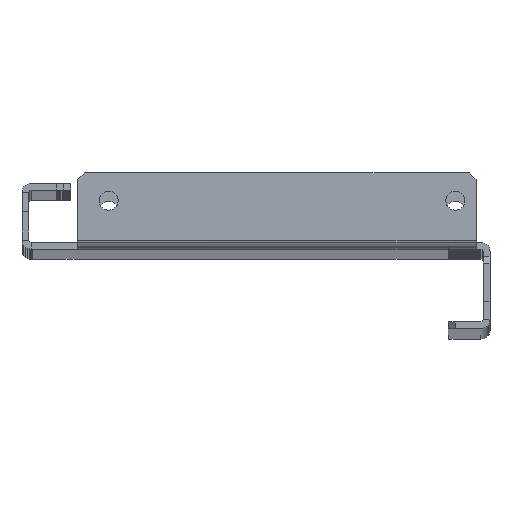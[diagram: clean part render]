
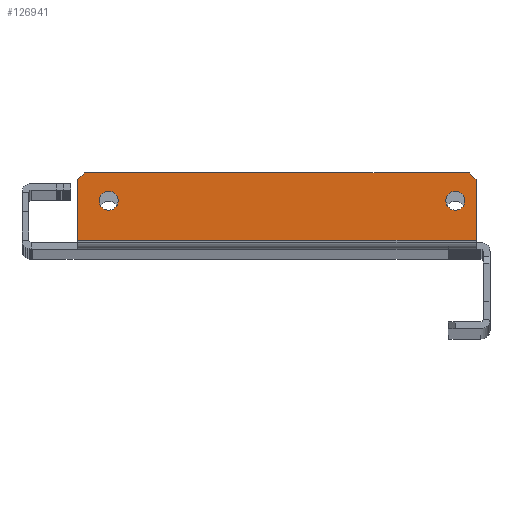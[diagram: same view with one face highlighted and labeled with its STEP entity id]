
A CAD part, top view. The second image highlights one B-rep face of the part: STEP entity #126941.
In plain terms, the highlighted planar face has unit normal (0, 0, 1).
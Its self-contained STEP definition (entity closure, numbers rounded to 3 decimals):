
#94421=CARTESIAN_POINT(' ',(131.,1.,1690.));
#94422=VERTEX_POINT(' ',#94421);
#94436=CARTESIAN_POINT(' ',(131.,1.,1690.));
#94441=DIRECTION(' ',(0.,-1.,0.));
#94446=VECTOR(' ',#94441,1.);
#94451=LINE('',#94436,#94446);
#94456=CARTESIAN_POINT(' ',(131.,-16.4,1690.));
#94457=VERTEX_POINT(' ',#94456);
#94461=EDGE_CURVE(' ',#94422,#94457,#94451,.T.);
#99801=CARTESIAN_POINT(' ',(16.,-16.4,1690.));
#99806=DIRECTION(' ',(1.,0.,0.));
#99811=VECTOR(' ',#99806,1.);
#99816=LINE('',#99801,#99811);
#99821=CARTESIAN_POINT(' ',(16.,-16.4,1690.));
#99822=VERTEX_POINT(' ',#99821);
#99826=EDGE_CURVE(' ',#99822,#94457,#99816,.T.);
#99926=CARTESIAN_POINT(' ',(16.,1.,1690.));
#99931=DIRECTION(' ',(0.,-1.,0.));
#99936=VECTOR(' ',#99931,1.);
#99941=LINE('',#99926,#99936);
#99946=CARTESIAN_POINT(' ',(16.,1.,1690.));
#99947=VERTEX_POINT(' ',#99946);
#99951=EDGE_CURVE(' ',#99947,#99822,#99941,.T.);
#126551=CARTESIAN_POINT(' ',(131.,1.,1690.));
#126556=DIRECTION(' ',(-0.707,0.707,0.));
#126561=VECTOR(' ',#126556,1.);
#126566=LINE('',#126551,#126561);
#126571=CARTESIAN_POINT(' ',(129.,3.,1690.));
#126572=VERTEX_POINT(' ',#126571);
#126576=EDGE_CURVE(' ',#94422,#126572,#126566,.T.);
#126641=DIRECTION(' ',(0.,0.,1.));
#126646=CARTESIAN_POINT(' ',(16.,-16.4,1690.));
#126651=DIRECTION(' ',(1.,0.,-0.));
#126656=AXIS2_PLACEMENT_3D(' ',#126646,#126641,#126651);
#126661=PLANE('NONE',#126656);
#126666=CARTESIAN_POINT(' ',(129.,3.,1690.));
#126671=DIRECTION(' ',(-1.,0.,0.));
#126676=VECTOR(' ',#126671,1.);
#126681=LINE('',#126666,#126676);
#126686=CARTESIAN_POINT(' ',(18.,3.,1690.));
#126687=VERTEX_POINT(' ',#126686);
#126691=EDGE_CURVE(' ',#126572,#126687,#126681,.T.);
#126696=ORIENTED_EDGE(' ',*,*,#126691,.T.);
#126701=CARTESIAN_POINT(' ',(18.,3.,1690.));
#126706=DIRECTION(' ',(-0.707,-0.707,0.));
#126711=VECTOR(' ',#126706,1.);
#126716=LINE('',#126701,#126711);
#126721=EDGE_CURVE(' ',#126687,#99947,#126716,.T.);
#126726=ORIENTED_EDGE(' ',*,*,#126721,.T.);
#126731=ORIENTED_EDGE(' ',*,*,#99951,.T.);
#126736=ORIENTED_EDGE(' ',*,*,#99826,.T.);
#126741=ORIENTED_EDGE(' ',*,*,#94461,.F.);
#126746=ORIENTED_EDGE(' ',*,*,#126576,.T.);
#126751=EDGE_LOOP(' ',(#126696,#126726,#126731,#126736,#126741,#126746));
#126756=FACE_OUTER_BOUND(' ',#126751,.T.);
#126761=CARTESIAN_POINT(' ',(25.,-5.,1690.));
#126766=DIRECTION(' ',(-0.,0.,-1.));
#126771=DIRECTION(' ',(0.,1.,0.));
#126776=AXIS2_PLACEMENT_3D(' ',#126761,#126766,#126771);
#126781=CIRCLE('',#126776,2.75);
#126786=CARTESIAN_POINT(' ',(25.,-2.25,1690.));
#126787=VERTEX_POINT(' ',#126786);
#126791=CARTESIAN_POINT(' ',(25.,-7.75,1690.));
#126792=VERTEX_POINT(' ',#126791);
#126796=EDGE_CURVE(' ',#126787,#126792,#126781,.T.);
#126801=ORIENTED_EDGE(' ',*,*,#126796,.T.);
#126806=CARTESIAN_POINT(' ',(25.,-5.,1690.));
#126811=DIRECTION(' ',(0.,0.,-1.));
#126816=DIRECTION(' ',(0.,-1.,0.));
#126821=AXIS2_PLACEMENT_3D(' ',#126806,#126811,#126816);
#126826=CIRCLE('',#126821,2.75);
#126831=EDGE_CURVE(' ',#126792,#126787,#126826,.T.);
#126836=ORIENTED_EDGE(' ',*,*,#126831,.T.);
#126841=EDGE_LOOP(' ',(#126801,#126836));
#126846=FACE_BOUND(' ',#126841,.T.);
#126851=CARTESIAN_POINT(' ',(125.,-5.,1690.));
#126856=DIRECTION(' ',(-0.,0.,-1.));
#126861=DIRECTION(' ',(0.,1.,0.));
#126866=AXIS2_PLACEMENT_3D(' ',#126851,#126856,#126861);
#126871=CIRCLE('',#126866,2.75);
#126876=CARTESIAN_POINT(' ',(125.,-2.25,1690.));
#126877=VERTEX_POINT(' ',#126876);
#126881=CARTESIAN_POINT(' ',(125.,-7.75,1690.));
#126882=VERTEX_POINT(' ',#126881);
#126886=EDGE_CURVE(' ',#126877,#126882,#126871,.T.);
#126891=ORIENTED_EDGE(' ',*,*,#126886,.T.);
#126896=CARTESIAN_POINT(' ',(125.,-5.,1690.));
#126901=DIRECTION(' ',(0.,0.,-1.));
#126906=DIRECTION(' ',(0.,-1.,0.));
#126911=AXIS2_PLACEMENT_3D(' ',#126896,#126901,#126906);
#126916=CIRCLE('',#126911,2.75);
#126921=EDGE_CURVE(' ',#126882,#126877,#126916,.T.);
#126926=ORIENTED_EDGE(' ',*,*,#126921,.T.);
#126931=EDGE_LOOP(' ',(#126891,#126926));
#126936=FACE_BOUND(' ',#126931,.T.);
#126941=ADVANCED_FACE('NONE',(#126756,#126846,#126936),#126661,.T.);
